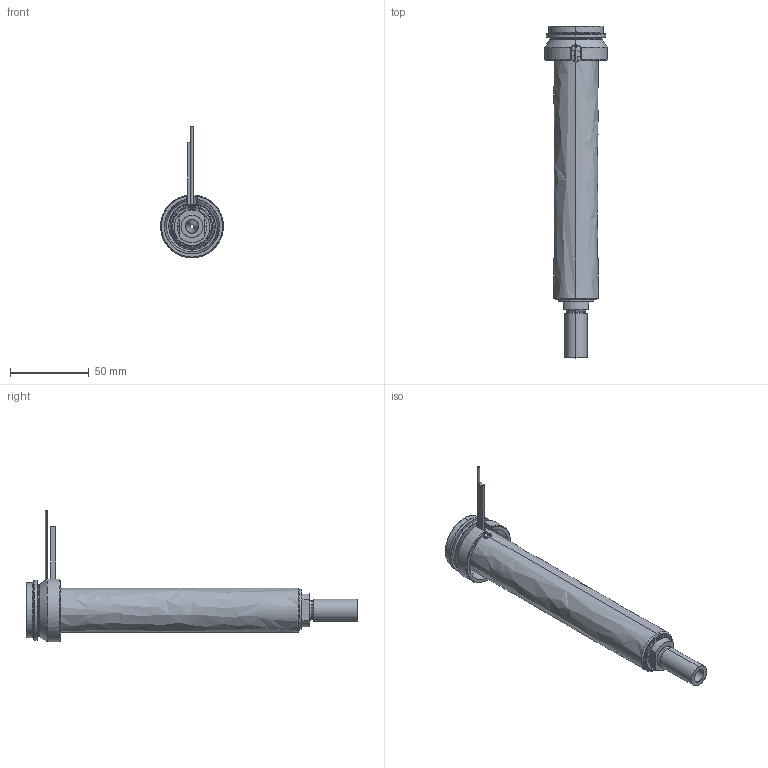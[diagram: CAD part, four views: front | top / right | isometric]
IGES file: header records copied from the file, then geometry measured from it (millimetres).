
Start section: SolidWorks IGES file using analytic representation for surfaces
Global section: file name: C:\Documents and Settings\ws-20\Desktop\TEMPORANEA\UGBE4004-S-A-P-5 [Ød-2.5 P-25 ØC-10].IGS; native system: SolidWorks 2012; preprocessor: SolidWorks 2012; author: ws-20; date: 120306.141136; units: millimetre
Bounding box: 40 x 211 x 83.65 mm (x, y, z)
Surface area: 56562 mm2 (no closed solid volume)
Topology: 0 solids, 0 shells, 105 faces, 1773 edges, 1773 vertices
Faces by surface type: revolution 66, bspline 39
